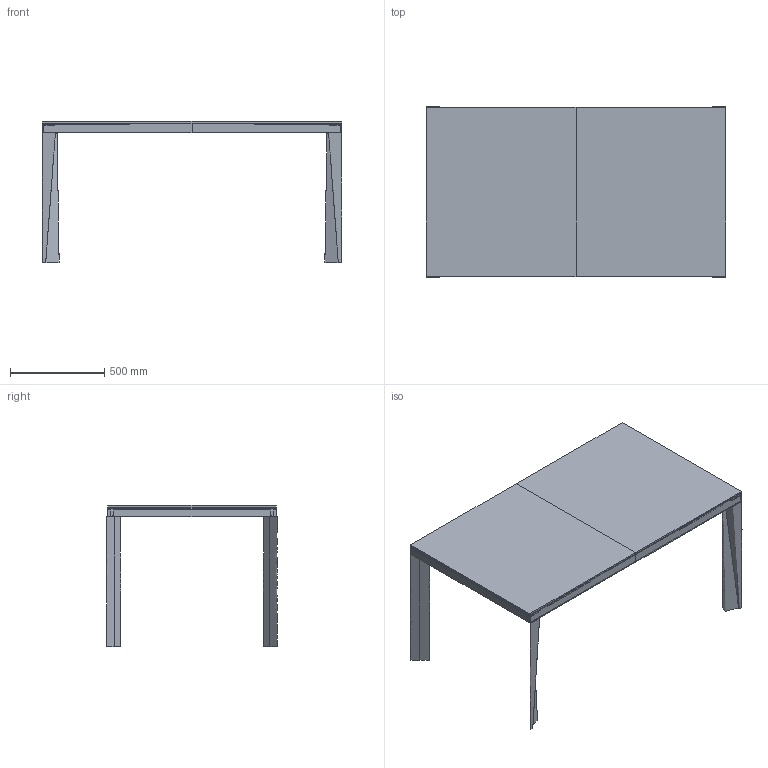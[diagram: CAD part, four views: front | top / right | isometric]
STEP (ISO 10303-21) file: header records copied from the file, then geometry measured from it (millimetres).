
FILE_DESCRIPTION(/* description */ (''),/* implementation_level */ '2;1');
FILE_NAME(/* name */ '10180 - Iceberg 160x90',/* time_stamp */ '2010-11-03T14:51:12+01:00',/* author */ (''),/* organization */ (''),/* preprocessor_version */ 'ST-DEVELOPER v10',/* originating_system */ '',/* authorisation */ '');
FILE_SCHEMA (('CONFIG_CONTROL_DESIGN'));
Length unit declared in the file: centimetre
Products named in the file (1): 1
Bounding box: 1591 x 906 x 750.51 mm (x, y, z)
Volume: 29541325.4 mm3; surface area: 7092043.8 mm2
Topology: 13 solids, 13 shells, 194 faces, 460 edges, 288 vertices
Faces by surface type: plane 174, bspline 20
Entity records: 6076 total; most frequent: CARTESIAN_POINT 2752, ORIENTED_EDGE 920, EDGE_CURVE 460, B_SPLINE_CURVE_WITH_KNOTS 428, VERTEX_POINT 288, ADVANCED_FACE 194, FACE_OUTER_BOUND 194, EDGE_LOOP 194
